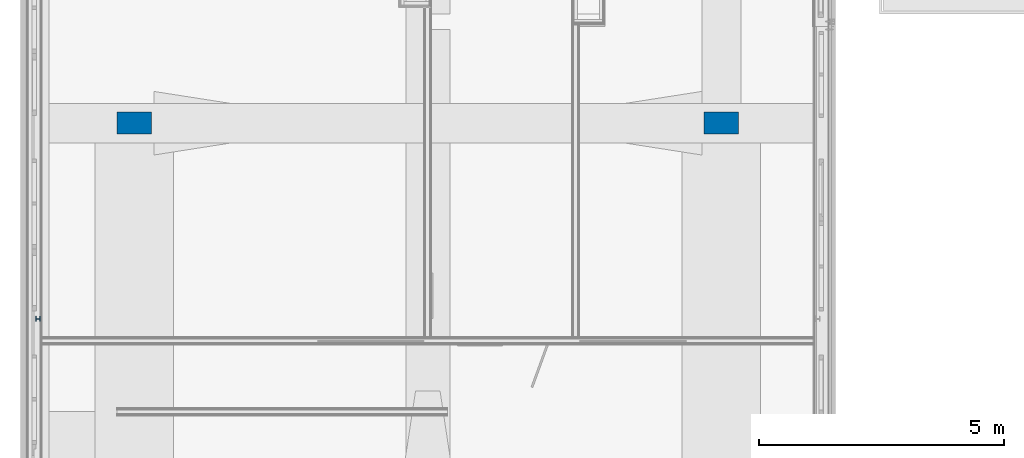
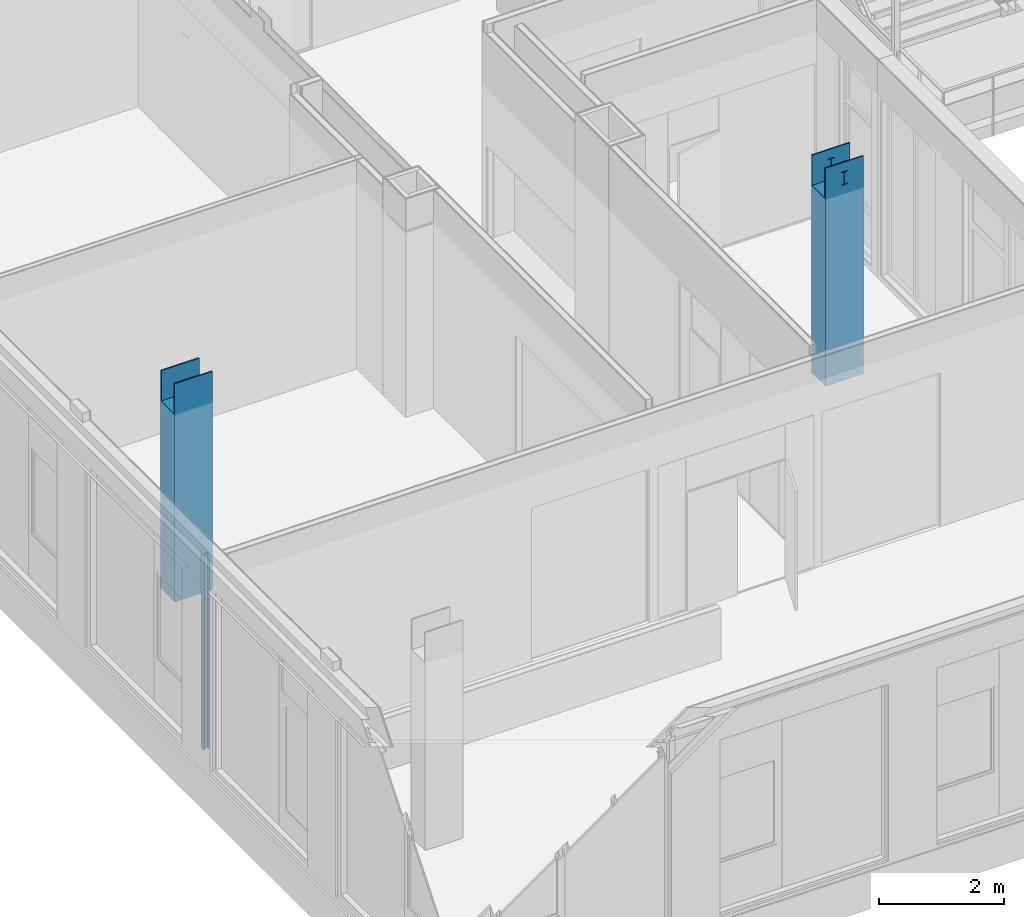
# One storey, part 4 of 94: 3 columns.
"""IFC2X3 building model written with IfcOpenShell, lengths in millimetres."""

from ifc_helpers import new_model, entity, si_unit, converted_unit, derived_unit, money_unit, direction, frame, origin_with_axes, place, context, subcontext, project, spatial, faceted_brep, material, type_object, element, save


model = new_model("IFC2X3")

# Units and contexts
model_context = context("Model", 3, precision=0.01, world=origin_with_axes(), true_north=direction((0.0, 1.0)))
body_context = subcontext(model_context, "Body", "Model", "MODEL_VIEW")
ifc_project = project(units=[si_unit("LENGTHUNIT", "METRE", prefix="MILLI"), si_unit("AREAUNIT", "SQUARE_METRE"), si_unit("VOLUMEUNIT", "CUBIC_METRE"), converted_unit("PLANEANGLEUNIT", "DEGREE", entity("IfcPlaneAngleMeasure", 0.0174532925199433), si_unit("PLANEANGLEUNIT", "RADIAN"), dimensions=[0, 0, 0, 0, 0, 0, 0]), money_unit("EUR"), converted_unit("TIMEUNIT", "Year", entity("IfcTimeMeasure", 31557600.0), si_unit("TIMEUNIT", "SECOND"), dimensions=[0, 0, 1, 0, 0, 0, 0]), si_unit("MASSUNIT", "GRAM", prefix="KILO"), si_unit("THERMODYNAMICTEMPERATUREUNIT", "DEGREE_CELSIUS"), si_unit("LUMINOUSINTENSITYUNIT", "LUMEN"), si_unit("ENERGYUNIT", "JOULE", prefix="MEGA"), derived_unit("THERMALCONDUCTANCEUNIT", [(si_unit("POWERUNIT", "WATT"), 1), (si_unit("LENGTHUNIT", "METRE"), -1), (si_unit("THERMODYNAMICTEMPERATUREUNIT", "KELVIN"), -1)]), derived_unit("SPECIFICHEATCAPACITYUNIT", [(si_unit("ENERGYUNIT", "JOULE"), 1), (si_unit("MASSUNIT", "GRAM", prefix="KILO"), -1), (si_unit("THERMODYNAMICTEMPERATUREUNIT", "KELVIN"), -1)]), derived_unit("MASSDENSITYUNIT", [(si_unit("MASSUNIT", "GRAM", prefix="KILO"), 1), (si_unit("VOLUMEUNIT", "CUBIC_METRE"), -1)])], contexts=[model_context])

# Site, building, storey
site_placement = place(None, origin_with_axes())
site = spatial("IfcSite", under=ifc_project, at=site_placement, Name="<site naam>", CompositionType="ELEMENT")
building_placement = place(site_placement, origin_with_axes())
building = spatial("IfcBuilding", under=site, at=building_placement, Name="<Naam gebouw>", CompositionType="ELEMENT")
storey_placement = place(building_placement, frame((0.0, 0.0, 4250.0), z_axis=(0.0, 0.0, 1.0), x_axis=(1.0, 0.0, 0.0)))
storey = spatial("IfcBuildingStorey", under=building, at=storey_placement, Name="01 1e verdieping", CompositionType="ELEMENT", Elevation=4250.0)

# Columns
ifc_material_1 = material(Name="staal C")
column_type_1 = type_object("IfcColumnType", Name="Profiel H algemeen 100 x 96", PredefinedType="COLUMN")
column_1_placement = place(storey_placement, frame((-11967.49999954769, -3999.999999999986, 0.0), z_axis=(0.0, 0.0, 1.0), x_axis=(0.0, -1.0, 0.0)))
element("IfcColumn", 1, at=column_1_placement, inside=storey, type_object=column_type_1, material=ifc_material_1, Name="28_Kolom_Profiel", ObjectType="COLUMN", context=body_context, shape_type="Brep", body=[
    faceted_brep([(-50.00000009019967, -48.00000045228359, 3789.999753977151), (-50.00000009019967, -48.00000045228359, 0.0), (50.00000009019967, -48.00000045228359, 0.0), (50.00000009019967, -48.00000045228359, 3789.999753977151), (-50.00000014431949, -39.99999797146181, 3789.999753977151), (-50.00000014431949, -39.99999797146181, 0.0), (-2.499999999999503, -39.99999797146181, 0.0), (-2.499999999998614, 39.99999797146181, 0.0), (-50.00000014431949, 39.99999797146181, 0.0), (-50.00000009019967, 48.00000045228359, 0.0), (50.00000009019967, 48.00000045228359, 0.0), (50.00000014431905, 39.99999797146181, 0.0), (2.500000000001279, 39.99999797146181, 0.0), (2.500000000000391, -39.99999797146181, 0.0), (50.00000014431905, -39.99999797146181, 0.0), (50.00000014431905, -39.99999797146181, 3789.999753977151), (2.500000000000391, -39.99999797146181, 3789.999753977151), (2.500000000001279, 39.99999797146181, 3789.999753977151), (50.00000014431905, 39.99999797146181, 3789.999753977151), (50.00000009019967, 48.00000045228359, 3789.999753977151), (-50.00000009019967, 48.00000045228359, 3789.999753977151), (-50.00000014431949, 39.99999797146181, 3789.999753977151), (-2.499999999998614, 39.99999797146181, 3789.999753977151), (-2.499999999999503, -39.99999797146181, 3789.999753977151)], [[[0, 1, 2, 3]], [[4, 5, 1, 0]], [[2, 1, 5, 6, 7, 8, 9, 10, 11, 12, 13, 14]], [[3, 2, 14, 15]], [[4, 0, 3, 15, 16, 17, 18, 19, 20, 21, 22, 23]], [[23, 6, 5, 4]], [[22, 7, 6, 23]], [[21, 8, 7, 22]], [[20, 9, 8, 21]], [[19, 10, 9, 20]], [[18, 11, 10, 19]], [[17, 12, 11, 18]], [[16, 13, 12, 17]], [[15, 14, 13, 16]]]),
])
ifc_material_2 = material(Name="betonblok C")
column_type_2 = type_object("IfcColumnType", Name="betonblok C 450 x 700", PredefinedType="COLUMN")
column_2_placement = place(storey_placement, frame((2000.000000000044, 0.0, 0.0), z_axis=(0.0, 0.0, 1.0), x_axis=(0.0, 1.0, 0.0)))
element("IfcColumn", 2, at=column_2_placement, inside=storey, type_object=column_type_2, material=ifc_material_2, Name="28_Kolom_betonblok", ObjectType="COLUMN", context=body_context, shape_type="Brep", body=[
    faceted_brep([(-224.9999999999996, -349.9999999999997, 4250.0), (-224.9999999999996, 349.9999999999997, 4250.0), (-224.9999999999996, 349.9999999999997, 0.0), (-224.9999999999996, -349.9999999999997, 0.0), (-224.9999999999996, 4.699803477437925, 4055.900000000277), (-224.9999999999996, 56.50000294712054, 4055.900000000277), (-224.9999999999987, 56.50004253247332, 4070.000000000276), (-224.9999999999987, -56.50043557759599, 4070.000000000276), (-224.9999999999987, -56.50039599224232, 4055.900000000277), (-224.9999999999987, -4.700196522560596, 4055.900000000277), (-224.9999999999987, -4.700196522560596, 3824.099787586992), (-224.9999999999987, -56.50039599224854, 3824.09978758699), (-224.9999999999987, -56.50043557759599, 3809.999755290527), (-224.9999999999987, 56.50004253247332, 3809.999755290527), (-224.9999999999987, 56.50000294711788, 3824.09978758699), (-224.9999999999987, 4.699803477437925, 3824.099787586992), (-199.9999999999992, -349.9999999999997, 4250.0), (-199.9999999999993, 349.9999999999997, 4250.0), (-199.9999999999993, 349.9999999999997, 3659.999999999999), (200.0000000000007, 349.9999999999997, 3659.999999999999), (200.0000000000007, 349.9999999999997, 4250.0), (225.0000000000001, 349.9999999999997, 4250.0), (225.0000000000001, 349.9999999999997, 0.0), (225.0000000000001, -349.9999999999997, 0.0), (200.0000000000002, -349.9999999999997, 3659.999999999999), (-199.9999999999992, -349.9999999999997, 3659.999999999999), (225.0000000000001, -349.9999999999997, 4250.0), (200.0000000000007, -349.9999999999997, 4250.0), (-199.9999999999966, 4.699803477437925, 4055.900000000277), (-199.9999999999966, 56.50000294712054, 4055.900000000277), (-199.9999999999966, 56.50004253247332, 4070.000000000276), (-199.9999999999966, -56.50043557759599, 4070.000000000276), (-199.9999999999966, -56.50039599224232, 4055.900000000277), (-199.9999999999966, -4.700196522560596, 4055.900000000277), (-199.9999999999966, -4.700196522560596, 3824.099787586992), (-199.9999999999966, -56.50039599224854, 3824.09978758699), (-199.9999999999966, -56.50043557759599, 3809.999755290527), (-199.9999999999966, 56.50004253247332, 3809.999755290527), (-199.9999999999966, 56.50000294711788, 3824.09978758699), (-199.9999999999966, 4.699803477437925, 3824.099787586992), (200.000000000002, 4.699803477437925, 4055.900000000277), (200.000000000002, 56.50000294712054, 4055.900000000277), (200.000000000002, 56.50004253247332, 4070.000000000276), (200.000000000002, -56.50043557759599, 4070.000000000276), (200.000000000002, -56.50039599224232, 4055.900000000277), (200.000000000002, -4.700196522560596, 4055.900000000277), (200.000000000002, -4.700196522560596, 3824.099787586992), (200.000000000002, -56.50039599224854, 3824.09978758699), (200.000000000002, -56.50043557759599, 3809.999755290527), (200.000000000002, 56.50004253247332, 3809.999755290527), (200.000000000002, 56.50000294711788, 3824.09978758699), (200.000000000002, 4.699803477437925, 3824.099787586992), (225.0000000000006, -4.700196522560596, 3824.099787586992), (225.0000000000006, -4.700196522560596, 4055.900000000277), (225.0000000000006, -56.50039599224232, 4055.900000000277), (225.0000000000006, -56.50043557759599, 4070.000000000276), (225.0000000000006, 56.50004253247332, 4070.000000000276), (225.0000000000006, 56.50000294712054, 4055.900000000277), (225.0000000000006, 4.699803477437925, 4055.900000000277), (225.0000000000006, 4.699803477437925, 3824.099787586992), (225.0000000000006, 56.50000294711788, 3824.09978758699), (225.0000000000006, 56.50004253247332, 3809.999755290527), (225.0000000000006, -56.50043557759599, 3809.999755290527), (225.0000000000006, -56.50039599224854, 3824.09978758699)], [[[0, 1, 2, 3], [4, 5, 6, 7, 8, 9, 10, 11, 12, 13, 14, 15]], [[0, 16, 17, 1]], [[18, 19, 20, 21, 22, 2, 1, 17]], [[22, 23, 3, 2]], [[24, 25, 16, 0, 3, 23, 26, 27]], [[4, 28, 29, 5]], [[5, 29, 30, 6]], [[6, 30, 31, 7]], [[7, 31, 32, 8]], [[8, 32, 33, 9]], [[9, 33, 34, 10]], [[10, 34, 35, 11]], [[11, 35, 36, 12]], [[12, 36, 37, 13]], [[13, 37, 38, 14]], [[14, 38, 39, 15]], [[15, 39, 28, 4]], [[18, 17, 16, 25], [34, 33, 32, 31, 30, 29, 28, 39, 38, 37, 36, 35]], [[18, 25, 24, 19]], [[19, 24, 27, 20], [40, 41, 42, 43, 44, 45, 46, 47, 48, 49, 50, 51]], [[21, 20, 27, 26]], [[21, 26, 23, 22], [52, 53, 54, 55, 56, 57, 58, 59, 60, 61, 62, 63]], [[40, 58, 57, 41]], [[41, 57, 56, 42]], [[42, 56, 55, 43]], [[43, 55, 54, 44]], [[44, 54, 53, 45]], [[45, 53, 52, 46]], [[46, 52, 63, 47]], [[47, 63, 62, 48]], [[48, 62, 61, 49]], [[49, 61, 60, 50]], [[50, 60, 59, 51]], [[51, 59, 58, 40]]]),
])
column_3_placement = place(storey_placement, frame((-9999.999999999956, 0.0, 0.0), z_axis=(0.0, 0.0, 1.0), x_axis=(0.0, 1.0, 0.0)))
element("IfcColumn", 3, at=column_3_placement, inside=storey, type_object=column_type_2, material=ifc_material_2, Name="28_Kolom_betonblok", ObjectType="COLUMN", context=body_context, shape_type="Brep", body=[
    faceted_brep([(225.0, 349.9999999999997, 4250.0), (199.9999999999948, 349.9999999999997, 4250.0), (199.9999999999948, -349.9999999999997, 4250.0), (225.0, -349.9999999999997, 4250.0), (-200.0000000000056, 349.9999999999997, 3659.999999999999), (199.9999999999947, 349.9999999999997, 3659.999999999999), (225.0, 349.9999999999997, 0.0), (-225.0, 349.9999999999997, 0.0), (-225.0, 349.9999999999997, 4250.0), (-200.0000000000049, 349.9999999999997, 4250.0), (199.9999999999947, -349.9999999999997, 3659.999999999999), (-200.0000000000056, -349.9999999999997, 3659.999999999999), (-200.0000000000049, -349.9999999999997, 4250.0), (-225.0, -349.9999999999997, 4250.0), (-225.0, -349.9999999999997, 0.0), (225.0, -349.9999999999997, 0.0)], [[[0, 1, 2, 3]], [[4, 5, 1, 0, 6, 7, 8, 9]], [[5, 10, 2, 1]], [[10, 11, 12, 13, 14, 15, 3, 2]], [[0, 3, 15, 6]], [[4, 11, 10, 5]], [[6, 15, 14, 7]], [[13, 8, 7, 14]], [[13, 12, 9, 8]], [[4, 9, 12, 11]]]),
])

save(model, "model.ifc")
